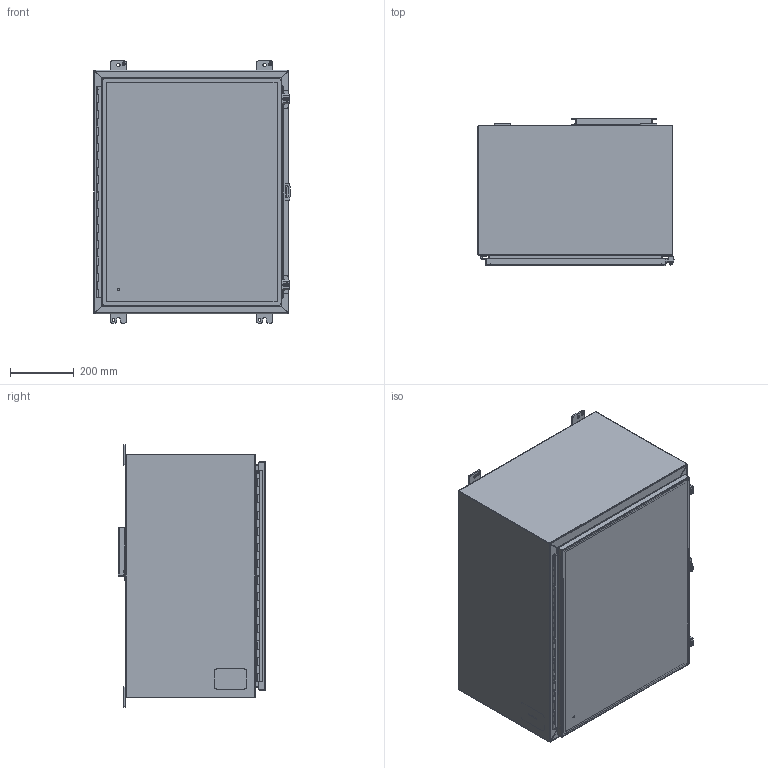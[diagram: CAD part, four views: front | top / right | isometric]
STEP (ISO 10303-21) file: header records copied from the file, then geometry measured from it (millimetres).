
FILE_DESCRIPTION(/* description */ ('Unknown'),/* implementation_level */ '2;1');
FILE_NAME(/* name */ '1418K16LP',/* time_stamp */ '2026-02-20T16:32:38-05:00',/* author */ ('Unknown'),/* organization */ ('Unknown'),/* preprocessor_version */ 'ST-DEVELOPER v18.104',/* originating_system */ 'Solid Edge',/* authorisation */ 'Unknown');
FILE_SCHEMA (('AUTOMOTIVE_DESIGN {1 0 10303 214 3 1 1}'));
Length unit declared in the file: millimetre
Products named in the file (31): 1418K16LP; STD26094; STD21878; COM42780; KIT90518; WAF25059; NTS166105; LAB30005; COM40153-1; HNG10620-26B; COM71780-17; COM40153-2; COM70219_oa_0; HNG10620-26C; PNT11078; COM48464; FET07710; AKT90223; SPR20265; SCC19011; WAF25035; COM42667; HNG10620-26P; BUL10020; QLB30109; PKT99; COM48510; KIT90256; NTS165305; NTS16535
Assembly tree (42 placements, depth 3):
  1418K16LP
    STD26094  x4
    STD21878
    COM42780  x2
    KIT90518
      WAF25059
      NTS166105
      LAB30005
    COM40153-1
    HNG10620-26B
    COM71780-17
      COM40153-2
      COM70219_oa_0
      HNG10620-26C
      COM71780-17
      STD21878
      PNT11078
    COM48464
    FET07710  x4
    AKT90223  x2
      SPR20265
      SCC19011
      WAF25035
      COM42667
    HNG10620-26P
    BUL10020
    QLB30109
    PKT99
    COM48510  x2
    KIT90256
      LAB30005
      NTS165305
      NTS16535
    PNT11078
Bounding box: 612.77 x 460.38 x 819.15 mm (x, y, z)
Volume: 4398137.9 mm3; surface area: 4756941.3 mm2
Topology: 36 solids, 37 shells, 1213 faces, 3143 edges, 2038 vertices
Faces by surface type: plane 794, cylinder 314, bspline 57, cone 26, torus 20, sphere 2
Full cylindrical faces by diameter (mm): 3.175 x1, 4.763 x1, 4.976 x1, 5.41 x2, 6.198 x2, 6.35 x3, 6.731 x2, 7.137 x2, 7.805 x1, 7.938 x4, 8.382 x4, 9.525 x4, 9.906 x2, 11.113 x4, 11.303 x1, 12.7 x2, 16.51 x4, 25.4 x1, 88.9 x1
Entity records: 29720 total; most frequent: CARTESIAN_POINT 7971, ORIENTED_EDGE 4364, DIRECTION 4113, EDGE_CURVE 2182, LINE 1463, VECTOR 1463, VERTEX_POINT 1429, AXIS2_PLACEMENT_3D 1325
